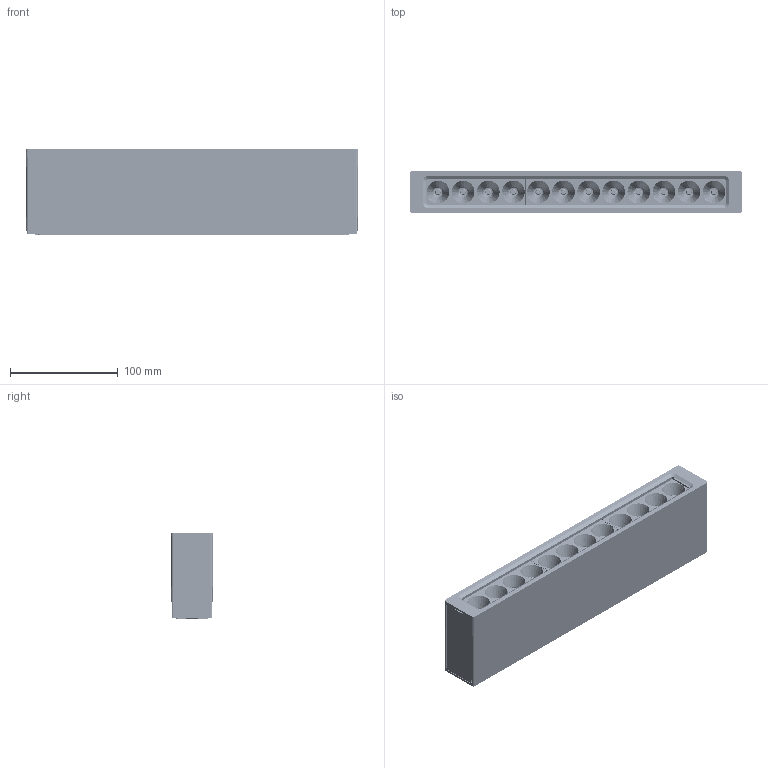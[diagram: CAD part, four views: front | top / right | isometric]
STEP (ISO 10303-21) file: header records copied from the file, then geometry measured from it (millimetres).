
FILE_DESCRIPTION(/* description */ (''),/* implementation_level */ '2;1');
FILE_NAME(/* name */ 'Darcy 12 Cells Assembly.stp',/* time_stamp */ '2026-02-19T10:56:17+11:00',/* author */ ('Mlight'),/* organization */ (''),/* preprocessor_version */ 'ST-DEVELOPER v20',/* originating_system */ 'Autodesk Inventor 2024',/* authorisation */ '');
FILE_SCHEMA (('AUTOMOTIVE_DESIGN { 1 0 10303 214 3 1 1 }'));
Products named in the file (24): Evelo X 12 Cell SM Darcy; DARCY Board Assembly with Weld Clip; Ledil Darcy PCB; C18696; LED Board 2000 A0; AS 1427 - M3 x 6; Heyco Snap In Liquid Tight Bushing 4014; Air Vent RSV-M12 1.5; Air Vent RSV-M12 1.5_1; Evelo X End Cap Cover Darcy; DARCY-4x1; Copy (1) of C19683_DARCY-SHD_004_MechanicalModel_001; Copy (1) of Mechanical-LENS; Copy (2) of Mechanical-LENS; Copy (3) of Mechanical-LENS; Copy (4) of Mechanical-LENS; Evelo X Aluminium End Cap; Evelo Modular SM Outer Body; Surface Mount Bracket; Evelo X Heat Sink Toshine Revision; AS 1427 - M4 x 12; Evelo X Gasket; AS 1427 - M4 x 10; Magnet
Assembly tree (66 placements, depth 3):
  Evelo X 12 Cell SM Darcy
    DARCY Board Assembly with Weld Clip
      Ledil Darcy PCB
      C18696  x12
      LED Board 2000 A0  x6
    AS 1427 - M3 x 6  x6
    Heyco Snap In Liquid Tight Bushing 4014
    Air Vent RSV-M12 1.5  x2
    Air Vent RSV-M12 1.5_1  x2
    Evelo X End Cap Cover Darcy  x2
    DARCY-4x1  x3
      Copy (1) of C19683_DARCY-SHD_004_MechanicalModel_001
      Copy (1) of Mechanical-LENS
      Copy (2) of Mechanical-LENS
      Copy (3) of Mechanical-LENS
      Copy (4) of Mechanical-LENS
    Evelo X Aluminium End Cap  x2
    Evelo Modular SM Outer Body
    Surface Mount Bracket
    Evelo X Heat Sink Toshine Revision
    AS 1427 - M4 x 12  x8
    Evelo X Gasket  x2
    AS 1427 - M4 x 10  x6
    Magnet  x4
Bounding box: 308.82 x 38.92 x 80 mm (x, y, z)
Volume: 301941 mm3; surface area: 267670.9 mm2
Topology: 72 solids, 72 shells, 8687 faces, 22489 edges, 13828 vertices
Faces by surface type: bspline 3591, plane 1836, cylinder 1139, cone 1086, torus 852, sphere 183
Full cylindrical faces by diameter (mm): 0.75 x4, 1.1 x6, 1.6 x6, 2.1 x3, 2.693 x6, 3 x6, 3.2 x6, 3.242 x6, 3.571 x14, 4 x15, 4.3 x2, 4.5 x18, 4.8 x4, 7 x14, 8 x1, 10 x8, 10.5 x4, 19.5 x1
Entity records: 163848 total; most frequent: CARTESIAN_POINT 93831, ORIENTED_EDGE 15352, DIRECTION 13059, EDGE_CURVE 7676, AXIS2_PLACEMENT_3D 5459, VERTEX_POINT 4700, EDGE_LOOP 3166, FACE_OUTER_BOUND 3023
